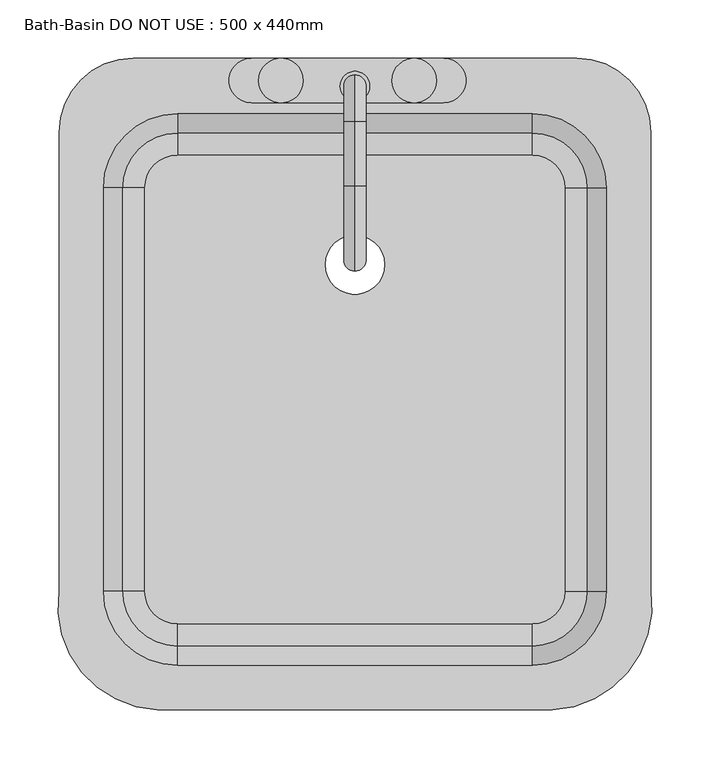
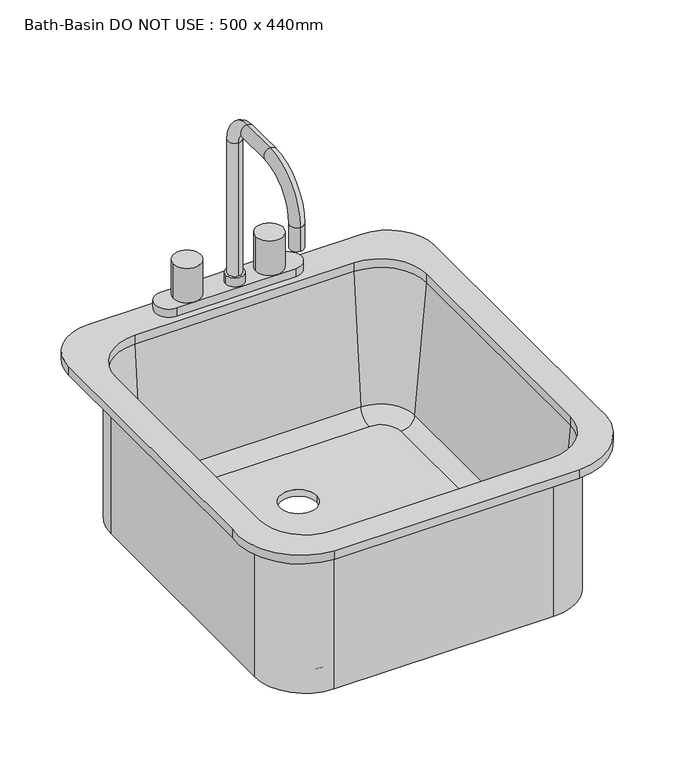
"""IFC4 building model written with IfcOpenShell, lengths in millimetres: flow terminal geometry, Bath-Basin DO NOT USE : 500 x 440mm."""

import ifcopenshell
import ifcopenshell.guid

model = None  # the IFC model being written
_history = None  # IfcOwnerHistory: only IFC2X3 demands one
_inside = {}  # id of a spatial element -> (the spatial element, [elements in it])
_under = {}  # id of a project, library or spatial element -> (it, [spatial elements below it])
_declared = {}  # id of a project -> (the project, [libraries it declares])
_typed = {}  # id of a type object -> (the type object, [elements of that type])
_made_of = {}  # id of a material, layer set ... -> (it, [elements and type objects made of it])


def new_model(schema):
    """Start an empty IFC model of exactly this schema.

    Asked for "IFC4X3", IfcOpenShell would pick the latest addendum, in which some entities
    have other attributes; the version numbers below select the first issue.
    IFC2X3 requires an IfcOwnerHistory on every rooted entity: one is made here for all.
    """
    global model, _history
    if schema == "IFC4X3":
        model = ifcopenshell.file(schema_version=(4, 3, 0, 0))
    else:
        model = ifcopenshell.file(schema=schema)
    _inside.clear()
    _under.clear()
    _declared.clear()
    _typed.clear()
    _made_of.clear()
    _history = None
    if model.schema == "IFC2X3":
        org = make("IfcOrganization", Name="unknown")
        user = make(
            "IfcPersonAndOrganization",
            ThePerson=make("IfcPerson", FamilyName="unknown"),
            TheOrganization=org,
        )
        app = make(
            "IfcApplication",
            ApplicationDeveloper=org,
            Version="unknown",
            ApplicationFullName="unknown",
            ApplicationIdentifier="unknown",
        )
        _history = make(
            "IfcOwnerHistory",
            OwningUser=user,
            OwningApplication=app,
            ChangeAction="ADDED",
            CreationDate=0,
        )
    return model


def make(cls, **values):
    """One entity of the class cls with the attributes given. An attribute that is None is left unset."""
    return model.create_entity(
        cls, **{name: value for name, value in values.items() if value is not None}
    )


def rooted(cls, **values):
    """An entity with a GlobalId (a new one), such as an element, a storey or a relation."""
    return make(cls, GlobalId=ifcopenshell.guid.new(), OwnerHistory=_history, **values)


def si_unit(unit_type, name, prefix=None):
    """IfcSIUnit, for example si_unit("LENGTHUNIT", "METRE", prefix="MILLI")."""
    return make("IfcSIUnit", UnitType=unit_type, Prefix=prefix, Name=name)


def assignment(units):
    """IfcUnitAssignment: the units of a project."""
    return None if units is None else make("IfcUnitAssignment", Units=units)


def point(xyz):
    """IfcCartesianPoint."""
    return None if xyz is None else make("IfcCartesianPoint", Coordinates=xyz)


def direction(xyz):
    """IfcDirection."""
    return None if xyz is None else make("IfcDirection", DirectionRatios=xyz)


def frame(location, z_axis=None, x_axis=None):
    """IfcAxis2Placement3D, a coordinate frame: its origin and axes. An axis left out is left unset."""
    return make(
        "IfcAxis2Placement3D",
        Location=point(location),
        Axis=direction(z_axis),
        RefDirection=direction(x_axis),
    )


def origin():
    """The frame at (0, 0, 0) with its axes left unset."""
    return frame((0.0, 0.0, 0.0))


def place(relative_to, where):
    """IfcLocalPlacement: puts the frame where relative to a parent placement (None: the world)."""
    return make(
        "IfcLocalPlacement", PlacementRelTo=relative_to, RelativePlacement=where
    )


def context(
    kind, dimensions, precision=None, world=None, true_north=None, identifier=None
):
    """IfcGeometricRepresentationContext, for example the 3D "Model" context."""
    return make(
        "IfcGeometricRepresentationContext",
        ContextIdentifier=identifier,
        ContextType=kind,
        CoordinateSpaceDimension=dimensions,
        Precision=precision,
        WorldCoordinateSystem=world,
        TrueNorth=true_north,
    )


def project(units=None, contexts=None):
    """IfcProject with its units and contexts."""
    return rooted(
        "IfcProject",
        Name="project",
        RepresentationContexts=contexts,
        UnitsInContext=assignment(units),
    )


def spatial(cls, under=None, at=None, **own):
    """A site, building, storey or space (cls), placed at a placement, below another one or the project."""
    s = rooted(cls, ObjectPlacement=at, **own)
    if under is not None:
        _under.setdefault(under.id(), (under, []))[1].append(s)
    return s


def polyline(points):
    """IfcPolyline through the points."""
    return make("IfcPolyline", Points=[point(p) for p in points])


def circle_curve(where, radius):
    """IfcCircle in the frame where."""
    return make("IfcCircle", Position=where, Radius=radius)


def ellipse_curve(where, semi_axis1, semi_axis2):
    """IfcEllipse in the frame where."""
    return make(
        "IfcEllipse", Position=where, SemiAxis1=semi_axis1, SemiAxis2=semi_axis2
    )


def trimmed(basis, trim1, trim2, sense, master):
    """IfcTrimmedCurve: the piece of a basis curve between two trims."""
    return make(
        "IfcTrimmedCurve",
        BasisCurve=basis,
        Trim1=trim1,
        Trim2=trim2,
        SenseAgreement=sense,
        MasterRepresentation=master,
    )


def shape(context_of_items, identifier, shape_type, items):
    """IfcShapeRepresentation: the items that make up one representation, for example the "Body"."""
    return make(
        "IfcShapeRepresentation",
        ContextOfItems=context_of_items,
        RepresentationIdentifier=identifier,
        RepresentationType=shape_type,
        Items=items,
    )


def source(mapping_origin, context_of_items, identifier, shape_type, items):
    """IfcRepresentationMap: a shape defined once, which mapped items show again and again."""
    return make(
        "IfcRepresentationMap",
        MappingOrigin=mapping_origin,
        MappedRepresentation=shape(context_of_items, identifier, shape_type, items),
    )


def transform(
    local_origin,
    x_axis=None,
    y_axis=None,
    z_axis=None,
    scale=None,
    scale2=None,
    scale3=None,
    uniform=True,
):
    """IfcCartesianTransformationOperator3D, or its non-uniform kind. x_axis, y_axis, z_axis: its Axis1, 2, 3."""
    if uniform:
        return make(
            "IfcCartesianTransformationOperator3D",
            Axis1=direction(x_axis),
            Axis2=direction(y_axis),
            LocalOrigin=point(local_origin),
            Scale=scale,
            Axis3=direction(z_axis),
        )
    return make(
        "IfcCartesianTransformationOperator3DnonUniform",
        Axis1=direction(x_axis),
        Axis2=direction(y_axis),
        LocalOrigin=point(local_origin),
        Scale=scale,
        Axis3=direction(z_axis),
        Scale2=scale2,
        Scale3=scale3,
    )


def mapped(mapping_source, mapping_target):
    """IfcMappedItem: shows the shape of a source again, moved by a transform."""
    return make(
        "IfcMappedItem", MappingSource=mapping_source, MappingTarget=mapping_target
    )


def made_of(thing, what):
    """Note that an element or type object is made of a material, layer set ...; save() writes the relation."""
    if what is not None:
        _made_of.setdefault(what.id(), (what, []))[1].append(thing)
    return thing


def element(
    cls,
    number,
    at=None,
    inside=None,
    cuts=None,
    type_object=None,
    material=None,
    context=None,
    identifier="Body",
    shape_type=None,
    held_by="IfcProductDefinitionShape",
    body=None,
    shapes=None,
    **own,
):
    """One element of the class cls, such as IfcWall. Its Tag is "e" and its number.

    at: its placement. inside: the storey or other place that contains it. cuts: it is an
    opening in that element (IfcRelVoidsElement). A single representation is given by context,
    identifier, shape_type and body (its items); several are given by shapes. held_by: the class
    of the entity that holds the representations. save() writes the other relations.
    """
    e = rooted(cls, Tag="e%d" % number, ObjectPlacement=at, **own)
    if body is not None:
        shapes = [shape(context, identifier, shape_type, body)]
    if shapes is not None:
        e.Representation = make(held_by, Representations=shapes)
    if inside is not None:
        _inside.setdefault(inside.id(), (inside, []))[1].append(e)
    if cuts is not None:
        rooted(
            "IfcRelVoidsElement", RelatingBuildingElement=cuts, RelatedOpeningElement=e
        )
    if type_object is not None:
        _typed.setdefault(type_object.id(), (type_object, []))[1].append(e)
    return made_of(e, material)


def aggregate(whole, parts):
    """IfcRelAggregates: a whole, such as a stair, and the parts it consists of."""
    return rooted("IfcRelAggregates", RelatingObject=whole, RelatedObjects=parts)


def save(model, path):
    """Write the relations noted so far, then the file.

    IfcRelAggregates (storeys below a building ...), IfcRelContainedInSpatialStructure (elements
    in a storey), IfcRelDefinesByType, IfcRelAssociatesMaterial and IfcRelDeclares: one each for
    every whole, place, type object, material and project.
    """
    for whole, parts in _under.values():
        aggregate(whole, parts)
    for where, things in _inside.values():
        rooted(
            "IfcRelContainedInSpatialStructure",
            RelatedElements=things,
            RelatingStructure=where,
        )
    for kind, things in _typed.values():
        rooted("IfcRelDefinesByType", RelatedObjects=things, RelatingType=kind)
    for what, things in _made_of.values():
        rooted("IfcRelAssociatesMaterial", RelatedObjects=things, RelatingMaterial=what)
    for by, libraries in _declared.values():
        rooted("IfcRelDeclares", RelatingContext=by, RelatedDefinitions=libraries)
    model.write(path)


def plane_surface(at):
    """IfcPlane: the flat surface through the origin of the frame at, square to its z axis."""
    return make("IfcPlane", Position=at)


def cylinder_surface(at, radius):
    """IfcCylindricalSurface: all points at the distance radius from the z axis of the frame at."""
    return make("IfcCylindricalSurface", Position=at, Radius=radius)


def revolved_surface(curve, axis_point, axis_direction):
    """IfcSurfaceOfRevolution: the curve turned about the line through axis_point along axis_direction."""
    return make(
        "IfcSurfaceOfRevolution",
        SweptCurve=make("IfcArbitraryOpenProfileDef", ProfileType="CURVE", Curve=curve),
        AxisPosition=make("IfcAxis1Placement", Location=point(axis_point), Axis=direction(axis_direction)),
    )


def advanced_brep(points, edges, surfaces, faces):
    """IfcAdvancedBrep: a solid bounded by faces that lie on surfaces and meet in shared edges.

    An edge is (start, end): straight between two places in points (the first is 0);
    or (start, end, curve); or (start, end, curve, False) where it runs against its curve.
    A face is (place in surfaces, loops), or (place, loops, False) where it looks against
    its surface's normal. A loop lists edges by number (the first is 1), with a minus sign
    where the edge is run from its end to its start. The first loop is the outer one.
    """
    corners = [point(p) for p in points]
    vertices = [make("IfcVertexPoint", VertexGeometry=c) for c in corners]
    made = []
    for start, end, *more in edges:
        made.append(
            make(
                "IfcEdgeCurve",
                EdgeStart=vertices[start],
                EdgeEnd=vertices[end],
                EdgeGeometry=more[0] if more else make("IfcPolyline", Points=[corners[start], corners[end]]),
                SameSense=more[1] if len(more) > 1 else True,
            )
        )
    hull = []
    for where, loops, *sense in faces:
        bounds = []
        for j, loop in enumerate(loops):
            ring = [make("IfcOrientedEdge", EdgeElement=made[abs(k) - 1], Orientation=k > 0) for k in loop]
            bounds.append(
                make(
                    "IfcFaceOuterBound" if j == 0 else "IfcFaceBound",
                    Bound=make("IfcEdgeLoop", EdgeList=ring),
                    Orientation=True,
                )
            )
        hull.append(make("IfcAdvancedFace", Bounds=bounds, FaceSurface=surfaces[where], SameSense=sense[0] if sense else True))
    return make("IfcAdvancedBrep", Outer=make("IfcClosedShell", CfsFaces=hull))


def bath_basin_do_not_use_500_x_440mm_e641f4fc(model_context):
    return source(origin(), model_context, "Body", "AdvancedBrep", [
        advanced_brep(
        [(237.9392406, 69.0204011, 546.1), (168.0892406, 138.8704011, 546.1), (168.0892406, 138.8704011, 762.0), (237.9392406, 69.0204011, 762.0), (237.9392406, -277.0545989, 546.1), (168.0892406, -346.9045989, 546.1), (-136.7107595, -346.9045989, 546.1), (-206.5607595, -277.0545989, 546.1), (-206.5607595, 69.0204011, 546.1), (-136.7107595, 138.8704011, 546.1), (-9.7107594, 3.175, 546.1), (41.0892406, 3.175, 546.1), (196.0776588, 69.0204011, 555.625), (168.0892406, 97.0088193, 555.625), (-136.7107595, 97.0088193, 555.625), (-164.6991777, 69.0204011, 555.625), (-164.6991777, -277.0545989, 555.625), (-136.7107595, -305.0430171, 555.625), (168.0892406, -305.0430171, 555.625), (196.0776588, -277.0545989, 555.625), (-9.7107594, 3.175, 555.625), (41.0892406, 3.175, 555.625), (215.0551678, 69.0204011, 573.0146831), (168.0892406, 115.9863283, 573.0146831), (231.5892406, 69.0204011, 762.0), (168.0892406, 132.5204011, 762.0), (237.9392406, -277.0545989, 762.0), (215.0551678, -277.0545989, 573.0146831), (231.5892406, -277.0545989, 762.0), (168.0892406, -346.9045989, 762.0), (168.0892406, -324.0205261, 573.0146831), (168.0892406, -340.5545989, 762.0), (-136.7107595, -346.9045989, 762.0), (-136.7107595, -324.0205261, 573.0146831), (-136.7107595, -340.5545989, 762.0), (-206.5607595, -277.0545989, 762.0), (-183.6766867, -277.0545989, 573.0146831), (-200.2107595, -277.0545989, 762.0), (-206.5607595, 69.0204011, 762.0), (-183.6766867, 69.0204011, 573.0146831), (-200.2107595, 69.0204011, 762.0), (-136.7107595, 138.8704011, 762.0), (-136.7107595, 115.9863283, 573.0146831), (-136.7107595, 132.5204011, 762.0), (-153.9606924, -378.6545989, 774.7), (185.3391735, -378.6545989, 774.7), (269.6892406, -277.0545989, 774.7), (269.6892406, 116.6454011, 774.7), (206.1892406, 180.1454011, 774.7), (-174.8107594, 180.1454011, 774.7), (-238.3107594, 116.6454011, 774.7), (-238.3107594, -277.0545982, 774.7), (168.0892406, 132.5204011, 774.7), (231.5892406, 69.0204011, 774.7), (231.5892406, -277.0545989, 774.7), (168.0892406, -340.5545989, 774.7), (-136.7107595, -340.5545989, 774.7), (-200.2107595, -277.0545989, 774.7), (-200.2107595, 69.0204011, 774.7), (-136.7107595, 132.5204011, 774.7), (-153.9606924, -378.6545989, 762.0), (-238.3107594, -277.0545982, 762.0), (-238.3107594, 116.6454011, 762.0), (-174.8107594, 180.1454011, 762.0), (206.1892406, 180.1454011, 762.0), (269.6892406, 116.6454011, 762.0), (269.6892406, -277.0545989, 762.0), (185.3391735, -378.6545989, 762.0)],
        [
            (0, 1, circle_curve(frame((168.0892406, 69.0204011, 546.1), z_axis=(0.0, 0.0, 1.0), x_axis=(0.0, 1.0, 0.0)), 69.85)),
            (1, 2),
            (2, 3, circle_curve(frame((168.0892406, 69.0204011, 762.0), z_axis=(0.0, 0.0, -1.0), x_axis=(0.0, 1.0, 0.0)), 69.85)),
            (3, 0),
            (0, 4),
            (4, 5, circle_curve(frame((168.0892406, -277.0545989, 546.1), z_axis=(0.0, 0.0, -1.0), x_axis=(1.0, 0.0, 0.0)), 69.85)),
            (5, 6),
            (6, 7, circle_curve(frame((-136.7107595, -277.0545989, 546.1), z_axis=(0.0, 0.0, -1.0), x_axis=(0.0, -1.0, 0.0)), 69.85)),
            (7, 8),
            (8, 9, circle_curve(frame((-136.7107595, 69.0204011, 546.1), z_axis=(0.0, 0.0, -1.0), x_axis=(-1.0, 0.0, 0.0)), 69.85)),
            (9, 1),
            (10, 11, circle_curve(frame((15.6892406, 3.175, 546.1), z_axis=(0.0, 0.0, 1.0), x_axis=(1.0, 0.0, 0.0)), 25.4)),
            (11, 10, circle_curve(frame((15.6892406, 3.175, 546.1), z_axis=(0.0, 0.0, 1.0), x_axis=(1.0, 0.0, 0.0)), 25.4)),
            (12, 13, circle_curve(frame((168.0892406, 69.0204011, 555.625), z_axis=(0.0, 0.0, 1.0), x_axis=(0.0, 1.0, 0.0)), 27.9884182)),
            (13, 14),
            (14, 15, circle_curve(frame((-136.7107595, 69.0204011, 555.625), z_axis=(0.0, 0.0, 1.0), x_axis=(-1.0, 0.0, 0.0)), 27.9884182)),
            (15, 16),
            (16, 17, circle_curve(frame((-136.7107595, -277.0545989, 555.625), z_axis=(0.0, 0.0, 1.0), x_axis=(0.0, -1.0, 0.0)), 27.9884182)),
            (17, 18),
            (18, 19, circle_curve(frame((168.0892406, -277.0545989, 555.625), z_axis=(0.0, 0.0, 1.0), x_axis=(1.0, 0.0, 0.0)), 27.9884182)),
            (19, 12),
            (20, 21, circle_curve(frame((15.6892406, 3.175, 555.625), z_axis=(0.0, 0.0, -1.0), x_axis=(1.0, 0.0, 0.0)), 25.4)),
            (21, 20, circle_curve(frame((15.6892406, 3.175, 555.625), z_axis=(0.0, 0.0, -1.0), x_axis=(1.0, 0.0, 0.0)), 25.4)),
            (12, 22, circle_curve(frame((196.0776588, 69.0204011, 574.675), z_axis=(0.0, -1.0, 0.0), x_axis=(1.0, 0.0, 0.0)), 19.05)),
            (22, 23, circle_curve(frame((168.0892406, 69.0204011, 573.0146831), z_axis=(0.0, 0.0, 1.0), x_axis=(0.0, 1.0, 0.0)), 46.9659272)),
            (23, 13, circle_curve(frame((168.0892406, 97.0088193, 574.675), z_axis=(-1.0, 0.0, 0.0), x_axis=(0.0, 1.0, 0.0)), 19.05)),
            (22, 24),
            (24, 25, circle_curve(frame((168.0892406, 69.0204011, 762.0), z_axis=(0.0, 0.0, 1.0), x_axis=(0.0, 1.0, 0.0)), 63.5)),
            (25, 23),
            (3, 26),
            (26, 4),
            (19, 27, circle_curve(frame((196.0776588, -277.0545989, 574.675), z_axis=(0.0, -1.0, 0.0), x_axis=(1.0, 0.0, 0.0)), 19.05)),
            (27, 22),
            (27, 28),
            (28, 24),
            (26, 29, circle_curve(frame((168.0892406, -277.0545989, 762.0), z_axis=(0.0, 0.0, -1.0), x_axis=(1.0, 0.0, 0.0)), 69.85)),
            (29, 5),
            (18, 30, circle_curve(frame((168.0892406, -305.0430171, 574.675), z_axis=(-1.0, 0.0, 0.0), x_axis=(0.0, -1.0, 0.0)), 19.05)),
            (30, 27, circle_curve(frame((168.0892406, -277.0545989, 573.0146831), z_axis=(0.0, 0.0, 1.0), x_axis=(1.0, 0.0, 0.0)), 46.9659272)),
            (30, 31),
            (31, 28, circle_curve(frame((168.0892406, -277.0545989, 762.0), z_axis=(0.0, 0.0, 1.0), x_axis=(1.0, 0.0, 0.0)), 63.5)),
            (29, 32),
            (32, 6),
            (17, 33, circle_curve(frame((-136.7107595, -305.0430171, 574.675), z_axis=(-1.0, 0.0, 0.0), x_axis=(0.0, -1.0, 0.0)), 19.05)),
            (33, 30),
            (33, 34),
            (34, 31),
            (32, 35, circle_curve(frame((-136.7107595, -277.0545989, 762.0), z_axis=(0.0, 0.0, -1.0), x_axis=(0.0, -1.0, 0.0)), 69.85)),
            (35, 7),
            (16, 36, circle_curve(frame((-164.6991777, -277.0545989, 574.675), z_axis=(0.0, 1.0, 0.0), x_axis=(-1.0, 0.0, 0.0)), 19.05)),
            (36, 33, circle_curve(frame((-136.7107595, -277.0545989, 573.0146831), z_axis=(0.0, 0.0, 1.0), x_axis=(0.0, -1.0, 0.0)), 46.9659272)),
            (36, 37),
            (37, 34, circle_curve(frame((-136.7107595, -277.0545989, 762.0), z_axis=(0.0, 0.0, 1.0), x_axis=(0.0, -1.0, 0.0)), 63.5)),
            (35, 38),
            (38, 8),
            (15, 39, circle_curve(frame((-164.6991777, 69.0204011, 574.675), z_axis=(0.0, 1.0, 0.0), x_axis=(-1.0, 0.0, 0.0)), 19.05)),
            (39, 36),
            (39, 40),
            (40, 37),
            (38, 41, circle_curve(frame((-136.7107595, 69.0204011, 762.0), z_axis=(0.0, 0.0, -1.0), x_axis=(-1.0, 0.0, 0.0)), 69.85)),
            (41, 9),
            (14, 42, circle_curve(frame((-136.7107595, 97.0088193, 574.675), z_axis=(1.0, 0.0, 0.0), x_axis=(0.0, 1.0, 0.0)), 19.05)),
            (42, 39, circle_curve(frame((-136.7107595, 69.0204011, 573.0146831), z_axis=(0.0, 0.0, 1.0), x_axis=(-1.0, 0.0, 0.0)), 46.9659272)),
            (42, 43),
            (43, 40, circle_curve(frame((-136.7107595, 69.0204011, 762.0), z_axis=(0.0, 0.0, 1.0), x_axis=(-1.0, 0.0, 0.0)), 63.5)),
            (41, 2),
            (23, 42),
            (25, 43),
            (20, 10),
            (11, 21),
            (44, 45),
            (45, 46, circle_curve(frame((181.5319558, -289.6793432, 774.7), z_axis=(0.0, 0.0, 1.0), x_axis=(1.0, 0.0, 0.0)), 89.0566732)),
            (46, 47),
            (47, 48, circle_curve(frame((206.1892406, 116.6454011, 774.7), z_axis=(0.0, 0.0, 1.0), x_axis=(1.0, 0.0, 0.0)), 63.5)),
            (48, 49),
            (49, 50, circle_curve(frame((-174.8107594, 116.6454011, 774.7), z_axis=(0.0, 0.0, 1.0), x_axis=(1.0, 0.0, 0.0)), 63.5)),
            (50, 51),
            (51, 44, circle_curve(frame((-150.1534746, -289.6793432, 774.7), z_axis=(0.0, 0.0, 1.0), x_axis=(1.0, 0.0, 0.0)), 89.0566732)),
            (52, 53, circle_curve(frame((168.0892406, 69.0204011, 774.7), z_axis=(0.0, 0.0, -1.0), x_axis=(1.0, 0.0, 0.0)), 63.5)),
            (53, 54),
            (54, 55, circle_curve(frame((168.0892406, -277.0545989, 774.7), z_axis=(0.0, 0.0, -1.0), x_axis=(1.0, 0.0, 0.0)), 63.5)),
            (55, 56),
            (56, 57, circle_curve(frame((-136.7107595, -277.0545989, 774.7), z_axis=(0.0, 0.0, -1.0), x_axis=(1.0, 0.0, 0.0)), 63.5)),
            (57, 58),
            (58, 59, circle_curve(frame((-136.7107595, 69.0204011, 774.7), z_axis=(0.0, 0.0, -1.0), x_axis=(1.0, 0.0, 0.0)), 63.5)),
            (59, 52),
            (60, 61, circle_curve(frame((-150.1534746, -289.6793432, 762.0), z_axis=(0.0, 0.0, -1.0), x_axis=(1.0, 0.0, 0.0)), 89.0566732)),
            (61, 62),
            (62, 63, circle_curve(frame((-174.8107594, 116.6454011, 762.0), z_axis=(0.0, 0.0, -1.0), x_axis=(1.0, 0.0, 0.0)), 63.5)),
            (63, 64),
            (64, 65, circle_curve(frame((206.1892406, 116.6454011, 762.0), z_axis=(0.0, 0.0, -1.0), x_axis=(1.0, 0.0, 0.0)), 63.5)),
            (65, 66),
            (66, 67, circle_curve(frame((181.5319558, -289.6793432, 762.0), z_axis=(0.0, 0.0, -1.0), x_axis=(1.0, 0.0, 0.0)), 89.0566732)),
            (67, 60),
            (44, 60),
            (67, 45),
            (66, 46),
            (65, 47),
            (64, 48),
            (63, 49),
            (62, 50),
            (61, 51),
            (52, 25),
            (24, 53),
            (28, 54),
            (31, 55),
            (34, 56),
            (37, 57),
            (40, 58),
            (43, 59),
        ],
        [
            cylinder_surface(frame((168.0892406, 69.0204011, 0.0), z_axis=(0.0, 0.0, -1.0), x_axis=(0.0, 1.0, 0.0)), 69.85),
            plane_surface(frame((168.0892406, 69.0204011, 546.1), z_axis=(0.0, 0.0, -1.0), x_axis=(0.0, 1.0, 0.0))),
            plane_surface(frame((168.0892406, 69.0204011, 555.625), z_axis=(0.0, 0.0, 1.0), x_axis=(0.0, 1.0, 0.0))),
            revolved_surface(trimmed(ellipse_curve(frame((168.0892406, 97.0088193, 574.675), z_axis=(1.0, 0.0, 0.0), x_axis=(0.0, 1.0, 0.0)), 19.05, 19.05), [point((168.0892406, 97.0088193, 555.625))], [point((168.0892406, 115.9863283, 573.0146831))], True, "CARTESIAN"), (168.0892406, 69.0204011, 0.0), (0.0, 0.0, -1.0)),
            revolved_surface(polyline([(168.0892406, 115.9863283, 573.0146831), (168.0892406, 132.5204011, 762.0)]), (168.0892406, 69.0204011, 0.0), (0.0, 0.0, -1.0)),
            plane_surface(frame((237.9392406, 69.0204011, 762.0), z_axis=(1.0, 0.0, 0.0), x_axis=(0.0, -1.0, 0.0))),
            revolved_surface(polyline([(215.1276588, -277.0545989, 574.675), (215.1276588, 69.0204011, 574.675)]), (196.0776588, 69.0204011, 574.675), (0.0, -1.0, 0.0)),
            plane_surface(frame((215.0551678, 69.0204011, 573.0146831), z_axis=(-0.9961946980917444, 0.0, 0.08715574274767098), x_axis=(0.0, -1.0, 0.0))),
            cylinder_surface(frame((168.0892406, -277.0545989, 0.0), z_axis=(0.0, 0.0, -1.0), x_axis=(1.0, 0.0, 0.0)), 69.85),
            revolved_surface(trimmed(ellipse_curve(frame((196.0776588, -277.0545989, 574.675), z_axis=(0.0, -1.0, 0.0), x_axis=(1.0, 0.0, 0.0)), 19.05, 19.05), [point((196.0776588, -277.0545989, 555.625))], [point((215.0551678, -277.0545989, 573.0146831))], True, "CARTESIAN"), (168.0892406, -277.0545989, 0.0), (0.0, 0.0, -1.0)),
            revolved_surface(polyline([(215.0551678, -277.0545989, 573.0146831), (231.5892406, -277.0545989, 762.0)]), (168.0892406, -277.0545989, 0.0), (0.0, 0.0, -1.0)),
            plane_surface(frame((168.0892406, -346.9045989, 762.0), z_axis=(0.0, -1.0, 0.0), x_axis=(-1.0, 0.0, 0.0))),
            revolved_surface(polyline([(-136.71075950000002, -324.0930171, 574.675), (168.0892406, -324.0930171, 574.675)]), (168.0892406, -305.0430171, 574.675), (-1.0, 0.0, 0.0)),
            plane_surface(frame((168.0892406, -324.0205261, 573.0146831), z_axis=(0.0, 0.9961946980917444, 0.08715574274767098), x_axis=(-1.0, 0.0, 0.0))),
            cylinder_surface(frame((-136.7107595, -277.0545989, 0.0), z_axis=(0.0, 0.0, -1.0), x_axis=(0.0, -1.0, 0.0)), 69.85),
            revolved_surface(trimmed(ellipse_curve(frame((-136.7107595, -305.0430171, 574.675), z_axis=(-1.0, 0.0, 0.0), x_axis=(0.0, -1.0, 0.0)), 19.05, 19.05), [point((-136.7107595, -305.0430171, 555.625))], [point((-136.7107595, -324.0205261, 573.0146831))], True, "CARTESIAN"), (-136.7107595, -277.0545989, 0.0), (0.0, 0.0, -1.0)),
            revolved_surface(polyline([(-136.7107595, -324.0205261, 573.0146831), (-136.7107595, -340.5545989, 762.0)]), (-136.7107595, -277.0545989, 0.0), (0.0, 0.0, -1.0)),
            plane_surface(frame((-206.5607595, -277.0545989, 762.0), z_axis=(-1.0, 0.0, 0.0), x_axis=(0.0, 1.0, 0.0))),
            revolved_surface(polyline([(-183.74917770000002, 69.02040110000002, 574.675), (-183.74917770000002, -277.0545989, 574.675)]), (-164.6991777, -277.0545989, 574.675), (0.0, 1.0, 0.0)),
            plane_surface(frame((-183.6766867, -277.0545989, 573.0146831), z_axis=(0.9961946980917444, 0.0, 0.08715574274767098), x_axis=(0.0, 1.0, 0.0))),
            cylinder_surface(frame((-136.7107595, 69.0204011, 0.0), z_axis=(0.0, 0.0, -1.0), x_axis=(-1.0, 0.0, 0.0)), 69.85),
            revolved_surface(trimmed(ellipse_curve(frame((-164.6991777, 69.0204011, 574.675), z_axis=(0.0, 1.0, 0.0), x_axis=(-1.0, 0.0, 0.0)), 19.05, 19.05), [point((-164.6991777, 69.0204011, 555.625))], [point((-183.6766867, 69.0204011, 573.0146831))], True, "CARTESIAN"), (-136.7107595, 69.0204011, 0.0), (0.0, 0.0, -1.0)),
            revolved_surface(polyline([(-183.6766867, 69.0204011, 573.0146831), (-200.2107595, 69.0204011, 762.0)]), (-136.7107595, 69.0204011, 0.0), (0.0, 0.0, -1.0)),
            plane_surface(frame((-136.7107595, 138.8704011, 762.0), z_axis=(0.0, 1.0, 0.0), x_axis=(1.0, 0.0, 0.0))),
            revolved_surface(polyline([(168.08924060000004, 116.0588193, 574.675), (-136.7107595, 116.0588193, 574.675)]), (-136.7107595, 97.0088193, 574.675), (1.0, 0.0, 0.0)),
            plane_surface(frame((-136.7107595, 115.9863283, 573.0146831), z_axis=(0.0, -0.9961946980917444, 0.08715574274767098), x_axis=(1.0, 0.0, 0.0))),
            revolved_surface(polyline([(41.0892406, 3.175, 546.1), (41.0892406, 3.175, 555.625)]), (15.6892406, 3.175, 0.0), (0.0, 0.0, -1.0)),
            plane_surface(frame((185.3391735, -378.6545989, 774.7), z_axis=(0.0, 0.0, 1.0), x_axis=(1.0, 0.0, 0.0))),
            plane_surface(frame((185.3391735, -378.6545989, 762.0), z_axis=(0.0, 0.0, -1.0), x_axis=(-1.0, 0.0, 0.0))),
            plane_surface(frame((-153.9606924, -378.6545989, 774.7), z_axis=(0.0, -1.0, 0.0), x_axis=(0.0, 0.0, -1.0))),
            cylinder_surface(frame((181.5319558, -289.6793432, 762.0), z_axis=(0.0, 0.0, 1.0), x_axis=(1.0, 0.0, 0.0)), 89.0566732),
            plane_surface(frame((269.6892406, -277.0545989, 774.7), z_axis=(1.0, 0.0, 0.0), x_axis=(0.0, 0.0, -1.0))),
            cylinder_surface(frame((206.1892406, 116.6454011, 762.0), z_axis=(0.0, 0.0, 1.0), x_axis=(1.0, 0.0, 0.0)), 63.5),
            plane_surface(frame((206.1892406, 180.1454011, 774.7), z_axis=(0.0, 1.0, 0.0), x_axis=(0.0, 0.0, -1.0))),
            cylinder_surface(frame((-174.8107594, 116.6454011, 762.0), z_axis=(0.0, 0.0, 1.0), x_axis=(1.0, 0.0, 0.0)), 63.5),
            plane_surface(frame((-238.3107594, 116.6454011, 774.7), z_axis=(-1.0, 0.0, 0.0), x_axis=(0.0, 0.0, -1.0))),
            cylinder_surface(frame((-150.1534746, -289.6793432, 762.0), z_axis=(0.0, 0.0, 1.0), x_axis=(1.0, 0.0, 0.0)), 89.0566732),
            revolved_surface(polyline([(231.5892406, 69.0204011, 762.0), (231.5892406, 69.0204011, 774.7)]), (168.0892406, 69.0204011, 0.0), (0.0, 0.0, -1.0)),
            plane_surface(frame((231.5892406, 69.0204011, 774.7), z_axis=(-1.0, 0.0, 0.0), x_axis=(0.0, 0.0, -1.0))),
            revolved_surface(polyline([(231.5892406, -277.0545989, 762.0), (231.5892406, -277.0545989, 774.7)]), (168.0892406, -277.0545989, 0.0), (0.0, 0.0, -1.0)),
            plane_surface(frame((168.0892406, -340.5545989, 774.7), z_axis=(0.0, 1.0, 0.0), x_axis=(0.0, 0.0, -1.0))),
            revolved_surface(polyline([(-73.2107595, -277.0545989, 762.0), (-73.2107595, -277.0545989, 774.7)]), (-136.7107595, -277.0545989, 0.0), (0.0, 0.0, -1.0)),
            plane_surface(frame((-200.2107595, -277.0545989, 774.7), z_axis=(1.0, 0.0, 0.0), x_axis=(0.0, 0.0, -1.0))),
            revolved_surface(polyline([(-73.2107595, 69.0204011, 762.0), (-73.2107595, 69.0204011, 774.7)]), (-136.7107595, 69.0204011, 0.0), (0.0, 0.0, -1.0)),
            plane_surface(frame((-136.7107595, 132.5204011, 774.7), z_axis=(0.0, -1.0, 0.0), x_axis=(0.0, 0.0, -1.0))),
        ],
        [
            (0, [[1, 2, 3, 4]]),
            (1, [[-1, 5, 6, 7, 8, 9, 10, 11], [12, 13]]),
            (2, [[14, 15, 16, 17, 18, 19, 20, 21], [22, 23]]),
            (3, [[-14, 24, 25, 26]]),
            (4, [[-25, 27, 28, 29]]),
            (5, [[-4, 30, 31, -5]]),
            (6, [[-24, -21, 32, 33]]),
            (7, [[-27, -33, 34, 35]]),
            (8, [[-31, 36, 37, -6]]),
            (9, [[-32, -20, 38, 39]]),
            (10, [[-34, -39, 40, 41]]),
            (11, [[-37, 42, 43, -7]]),
            (12, [[-38, -19, 44, 45]]),
            (13, [[-40, -45, 46, 47]]),
            (14, [[-43, 48, 49, -8]]),
            (15, [[-44, -18, 50, 51]]),
            (16, [[-46, -51, 52, 53]]),
            (17, [[-49, 54, 55, -9]]),
            (18, [[-50, -17, 56, 57]]),
            (19, [[-52, -57, 58, 59]]),
            (20, [[-55, 60, 61, -10]]),
            (21, [[-56, -16, 62, 63]]),
            (22, [[-58, -63, 64, 65]]),
            (23, [[-2, -11, -61, 66]]),
            (24, [[-26, 67, -62, -15]]),
            (25, [[-29, 68, -64, -67]]),
            (26, [[-22, 69, -13, 70]]),
            (26, [[-23, -70, -12, -69]]),
            (27, [[71, 72, 73, 74, 75, 76, 77, 78], [79, 80, 81, 82, 83, 84, 85, 86]]),
            (28, [[87, 88, 89, 90, 91, 92, 93, 94], [-3, -66, -60, -54, -48, -42, -36, -30]]),
            (29, [[-71, 95, -94, 96]]),
            (30, [[-72, -96, -93, 97]]),
            (31, [[-73, -97, -92, 98]]),
            (32, [[-74, -98, -91, 99]]),
            (33, [[-75, -99, -90, 100]]),
            (34, [[-76, -100, -89, 101]]),
            (35, [[-77, -101, -88, 102]]),
            (36, [[-78, -102, -87, -95]]),
            (37, [[-79, 103, -28, 104]]),
            (38, [[-80, -104, -35, 105]]),
            (39, [[-81, -105, -41, 106]]),
            (40, [[-82, -106, -47, 107]]),
            (41, [[-83, -107, -53, 108]]),
            (42, [[-84, -108, -59, 109]]),
            (43, [[-85, -109, -65, 110]]),
            (44, [[-86, -110, -68, -103]]),
        ],
    ),
        advanced_brep(
        [(91.8892406, 180.1454011, 774.7), (91.8892406, 142.0454011, 774.7), (66.4892406, 142.0454011, 774.7), (-47.8107594, 142.0454011, 774.7), (-73.2107594, 142.0454011, 774.7), (-73.2107594, 180.1454011, 774.7), (-47.8107594, 180.1454011, 774.7), (66.4892406, 180.1454011, 774.7), (15.6892406, 165.8579011, 995.3625), (15.6892406, 146.8079011, 995.3625), (15.6892406, 146.8079011, 800.1), (15.6892406, 165.8579011, 800.1), (15.6892406, 126.1704011, 1035.05), (15.6892406, 126.1704011, 1016.0), (15.6892406, 70.6079011, 1035.05), (15.6892406, 70.6079011, 1016.0), (15.6892406, -2.4170989, 962.025), (15.6892406, 16.6329011, 962.025), (15.6892406, -2.4170989, 927.1), (15.6892406, 16.6329011, 927.1), (2.9892406, 156.3329011, 800.1), (28.3892406, 156.3329011, 800.1), (2.9892406, 156.3329011, 787.2), (28.3892406, 156.3329011, 787.2), (-73.2107594, 180.1454011, 787.2), (-73.2107594, 142.0454011, 787.2), (-47.8107594, 142.0454011, 787.2), (-66.8607594, 161.0954011, 787.2), (-47.8107594, 180.1454011, 787.2), (91.8892406, 142.0454011, 787.2), (91.8892406, 180.1454011, 787.2), (66.4892406, 180.1454011, 787.2), (85.5392406, 161.0954011, 787.2), (66.4892406, 142.0454011, 787.2), (-28.7607594, 161.0954011, 787.2), (47.4392406, 161.0954011, 787.2), (-66.8607594, 161.0954011, 838.2), (-28.7607594, 161.0954011, 838.2), (47.4392406, 161.0954011, 838.2), (85.5392406, 161.0954011, 838.2)],
        [
            (0, 1, circle_curve(frame((91.8892406, 161.0954011, 774.7), z_axis=(0.0, 0.0, -1.0), x_axis=(1.0, 0.0, 0.0)), 19.05)),
            (1, 2),
            (2, 3),
            (3, 4),
            (4, 5, circle_curve(frame((-73.2107594, 161.0954011, 774.7), z_axis=(0.0, 0.0, -1.0), x_axis=(1.0, 0.0, 0.0)), 19.05)),
            (5, 6),
            (6, 7),
            (7, 0),
            (8, 9, circle_curve(frame((15.6892406, 156.3329011, 995.3625), z_axis=(0.0, 0.0, -1.0), x_axis=(0.0, -1.0, 0.0)), 9.525)),
            (9, 10),
            (10, 11, circle_curve(frame((15.6892406, 156.3329011, 800.1), z_axis=(0.0, 0.0, 1.0), x_axis=(0.0, -1.0, 0.0)), 9.525)),
            (11, 8),
            (9, 8, circle_curve(frame((15.6892406, 156.3329011, 995.3625), z_axis=(0.0, 0.0, -1.0), x_axis=(0.0, -1.0, 0.0)), 9.525)),
            (11, 10, circle_curve(frame((15.6892406, 156.3329011, 800.1), z_axis=(0.0, 0.0, 1.0), x_axis=(0.0, -1.0, 0.0)), 9.525)),
            (8, 12, circle_curve(frame((15.6892406, 126.1704011, 995.3625), z_axis=(1.0, 0.0, 0.0), x_axis=(0.0, 1.0, 0.0)), 39.6875)),
            (12, 13, circle_curve(frame((15.6892406, 126.1704011, 1025.525), z_axis=(0.0, 1.0, 0.0), x_axis=(0.0, 0.0, -1.0)), 9.525)),
            (13, 9, circle_curve(frame((15.6892406, 126.1704011, 995.3625), z_axis=(-1.0, 0.0, 0.0), x_axis=(0.0, 1.0, 0.0)), 20.6375)),
            (13, 12, circle_curve(frame((15.6892406, 126.1704011, 1025.525), z_axis=(0.0, 1.0, 0.0), x_axis=(0.0, 0.0, -1.0)), 9.525)),
            (12, 14),
            (14, 15, circle_curve(frame((15.6892406, 70.6079011, 1025.525), z_axis=(0.0, 1.0, 0.0), x_axis=(0.0, 0.0, -1.0)), 9.525)),
            (15, 13),
            (15, 14, circle_curve(frame((15.6892406, 70.6079011, 1025.525), z_axis=(0.0, 1.0, 0.0), x_axis=(0.0, 0.0, -1.0)), 9.525)),
            (14, 16, circle_curve(frame((15.6892406, 70.6079011, 962.025), z_axis=(1.0, 0.0, 0.0), x_axis=(0.0, 0.0, 1.0)), 73.025)),
            (16, 17, circle_curve(frame((15.6892406, 7.1079011, 962.025), z_axis=(0.0, 0.0, 1.0), x_axis=(0.0, 1.0, 0.0)), 9.525)),
            (17, 15, circle_curve(frame((15.6892406, 70.6079011, 962.025), z_axis=(-1.0, 0.0, 0.0), x_axis=(0.0, 0.0, 1.0)), 53.975)),
            (17, 16, circle_curve(frame((15.6892406, 7.1079011, 962.025), z_axis=(0.0, 0.0, 1.0), x_axis=(0.0, 1.0, 0.0)), 9.525)),
            (18, 19, circle_curve(frame((15.6892406, 7.1079011, 927.1), z_axis=(0.0, 0.0, -1.0), x_axis=(0.0, 1.0, 0.0)), 9.525)),
            (19, 18, circle_curve(frame((15.6892406, 7.1079011, 927.1), z_axis=(0.0, 0.0, -1.0), x_axis=(0.0, 1.0, 0.0)), 9.525)),
            (16, 18),
            (19, 17),
            (20, 21, circle_curve(frame((15.6892406, 156.3329011, 800.1), z_axis=(0.0, 0.0, 1.0), x_axis=(1.0, 0.0, 0.0)), 12.7)),
            (21, 20, circle_curve(frame((15.6892406, 156.3329011, 800.1), z_axis=(0.0, 0.0, 1.0), x_axis=(1.0, 0.0, 0.0)), 12.7)),
            (20, 22),
            (22, 23, circle_curve(frame((15.6892406, 156.3329011, 787.2), z_axis=(0.0, 0.0, 1.0), x_axis=(1.0, 0.0, 0.0)), 12.7)),
            (23, 21),
            (23, 22, circle_curve(frame((15.6892406, 156.3329011, 787.2), z_axis=(0.0, 0.0, 1.0), x_axis=(1.0, 0.0, 0.0)), 12.7)),
            (24, 25, circle_curve(frame((-73.2107594, 161.0954011, 787.2), z_axis=(0.0, 0.0, 1.0), x_axis=(1.0, 0.0, 0.0)), 19.05)),
            (25, 26),
            (26, 27, circle_curve(frame((-47.8107594, 161.0954011, 787.2), z_axis=(0.0, 0.0, -1.0), x_axis=(1.0, 0.0, 0.0)), 19.05)),
            (27, 28, circle_curve(frame((-47.8107594, 161.0954011, 787.2), z_axis=(0.0, 0.0, -1.0), x_axis=(1.0, 0.0, 0.0)), 19.05)),
            (28, 24),
            (29, 30, circle_curve(frame((91.8892406, 161.0954011, 787.2), z_axis=(0.0, 0.0, 1.0), x_axis=(1.0, 0.0, 0.0)), 19.05)),
            (30, 31),
            (31, 32, circle_curve(frame((66.4892406, 161.0954011, 787.2), z_axis=(0.0, 0.0, -1.0), x_axis=(1.0, 0.0, 0.0)), 19.05)),
            (32, 33, circle_curve(frame((66.4892406, 161.0954011, 787.2), z_axis=(0.0, 0.0, -1.0), x_axis=(1.0, 0.0, 0.0)), 19.05)),
            (33, 29),
            (31, 28),
            (28, 34, circle_curve(frame((-47.8107594, 161.0954011, 787.2), z_axis=(0.0, 0.0, -1.0), x_axis=(1.0, 0.0, 0.0)), 19.05)),
            (34, 26, circle_curve(frame((-47.8107594, 161.0954011, 787.2), z_axis=(0.0, 0.0, -1.0), x_axis=(1.0, 0.0, 0.0)), 19.05)),
            (26, 33),
            (33, 35, circle_curve(frame((66.4892406, 161.0954011, 787.2), z_axis=(0.0, 0.0, -1.0), x_axis=(1.0, 0.0, 0.0)), 19.05)),
            (35, 31, circle_curve(frame((66.4892406, 161.0954011, 787.2), z_axis=(0.0, 0.0, -1.0), x_axis=(1.0, 0.0, 0.0)), 19.05)),
            (30, 0),
            (5, 24),
            (4, 25),
            (1, 29),
            (36, 37, circle_curve(frame((-47.8107594, 161.0954011, 838.2), z_axis=(0.0, 0.0, 1.0), x_axis=(1.0, 0.0, 0.0)), 19.05)),
            (37, 36, circle_curve(frame((-47.8107594, 161.0954011, 838.2), z_axis=(0.0, 0.0, 1.0), x_axis=(1.0, 0.0, 0.0)), 19.05)),
            (38, 39, circle_curve(frame((66.4892406, 161.0954011, 838.2), z_axis=(0.0, 0.0, 1.0), x_axis=(1.0, 0.0, 0.0)), 19.05)),
            (39, 38, circle_curve(frame((66.4892406, 161.0954011, 838.2), z_axis=(0.0, 0.0, 1.0), x_axis=(1.0, 0.0, 0.0)), 19.05)),
            (36, 27),
            (34, 37),
            (38, 35),
            (32, 39),
        ],
        [
            plane_surface(frame((15.6892406, 146.8079011, 774.7), z_axis=(0.0, 0.0, -1.0), x_axis=(1.0, 0.0, 0.0))),
            cylinder_surface(frame((15.6892406, 156.3329011, 774.7), z_axis=(0.0, 0.0, -1.0), x_axis=(0.0, -1.0, 0.0)), 9.525),
            revolved_surface(trimmed(ellipse_curve(frame((15.6892406, 156.3329011, 995.3625), z_axis=(0.0, 0.0, -1.0), x_axis=(0.0, -1.0, 0.0)), 9.525, 9.525), [point((15.6892406, 165.8579011, 995.3625))], [point((15.6892406, 146.8079011, 995.3625))], True, "CARTESIAN"), (15.6892406, 126.1704011, 995.3625), (1.0, 0.0, 0.0)),
            revolved_surface(trimmed(ellipse_curve(frame((15.6892406, 156.3329011, 995.3625), z_axis=(0.0, 0.0, -1.0), x_axis=(0.0, -1.0, 0.0)), 9.525, 9.525), [point((15.6892406, 146.8079011, 995.3625))], [point((15.6892406, 165.8579011, 995.3625))], True, "CARTESIAN"), (15.6892406, 126.1704011, 995.3625), (1.0, 0.0, 0.0)),
            cylinder_surface(frame((15.6892406, 126.1704011, 1025.525), z_axis=(0.0, 1.0, 0.0), x_axis=(0.0, 0.0, -1.0)), 9.525),
            revolved_surface(trimmed(ellipse_curve(frame((15.6892406, 70.6079011, 1025.525), z_axis=(0.0, 1.0, 0.0), x_axis=(0.0, 0.0, -1.0)), 9.525, 9.525), [point((15.6892406, 70.6079011, 1035.05))], [point((15.6892406, 70.6079011, 1016.0))], True, "CARTESIAN"), (15.6892406, 70.6079011, 962.025), (1.0, 0.0, 0.0)),
            revolved_surface(trimmed(ellipse_curve(frame((15.6892406, 70.6079011, 1025.525), z_axis=(0.0, 1.0, 0.0), x_axis=(0.0, 0.0, -1.0)), 9.525, 9.525), [point((15.6892406, 70.6079011, 1016.0))], [point((15.6892406, 70.6079011, 1035.05))], True, "CARTESIAN"), (15.6892406, 70.6079011, 962.025), (1.0, 0.0, 0.0)),
            plane_surface(frame((15.6892406, -2.4170989, 927.1), z_axis=(0.0, 0.0, -1.0), x_axis=(-1.0, 0.0, 0.0))),
            cylinder_surface(frame((15.6892406, 7.1079011, 962.025), z_axis=(0.0, 0.0, 1.0), x_axis=(0.0, 1.0, 0.0)), 9.525),
            plane_surface(frame((28.3892406, 156.3329011, 800.1), z_axis=(0.0, 0.0, 1.0), x_axis=(0.0, 1.0, 0.0))),
            cylinder_surface(frame((15.6892406, 156.3329011, 774.7), z_axis=(0.0, 0.0, 1.0), x_axis=(1.0, 0.0, 0.0)), 12.7),
            plane_surface(frame((-73.2107594, 180.1454011, 787.2), z_axis=(0.0, 0.0, 1.0), x_axis=(-1.0, 0.0, 0.0))),
            plane_surface(frame((91.8892406, 180.1454011, 787.2), z_axis=(0.0, 1.0, 0.0), x_axis=(0.0, 0.0, -1.0))),
            cylinder_surface(frame((-73.2107594, 161.0954011, 774.7), z_axis=(0.0, 0.0, 1.0), x_axis=(1.0, 0.0, 0.0)), 19.05),
            plane_surface(frame((-73.2107594, 142.0454011, 787.2), z_axis=(0.0, -1.0, 0.0), x_axis=(0.0, 0.0, -1.0))),
            cylinder_surface(frame((91.8892406, 161.0954011, 774.7), z_axis=(0.0, 0.0, 1.0), x_axis=(1.0, 0.0, 0.0)), 19.05),
            plane_surface(frame((-28.7607594, 161.0954011, 838.2), z_axis=(0.0, 0.0, 1.0), x_axis=(0.0, 1.0, 0.0))),
            cylinder_surface(frame((-47.8107594, 161.0954011, 774.7), z_axis=(0.0, 0.0, 1.0), x_axis=(1.0, 0.0, 0.0)), 19.05),
            cylinder_surface(frame((66.4892406, 161.0954011, 0.0), z_axis=(0.0, 0.0, 1.0), x_axis=(1.0, 0.0, 0.0)), 19.05),
        ],
        [
            (0, [[1, 2, 3, 4, 5, 6, 7, 8]]),
            (1, [[9, 10, 11, 12]]),
            (1, [[13, -12, 14, -10]]),
            (2, [[-9, 15, 16, 17]]),
            (3, [[-13, -17, 18, -15]]),
            (4, [[-16, 19, 20, 21]]),
            (4, [[-18, -21, 22, -19]]),
            (5, [[-20, 23, 24, 25]]),
            (6, [[-22, -25, 26, -23]]),
            (7, [[27, 28]]),
            (8, [[-24, 29, -28, 30]]),
            (8, [[-26, -30, -27, -29]]),
            (9, [[31, 32], [-11, -14]]),
            (10, [[-31, 33, 34, 35]]),
            (10, [[-32, -35, 36, -33]]),
            (11, [[37, 38, 39, 40, 41]]),
            (11, [[42, 43, 44, 45, 46]]),
            (11, [[47, 48, 49, 50, 51, 52], [-34, -36]]),
            (12, [[53, -8, -7, -6, 54, -41, -47, -43]]),
            (13, [[-37, -54, -5, 55]]),
            (14, [[-55, -4, -3, -2, 56, -46, -50, -38]]),
            (15, [[-42, -56, -1, -53]]),
            (16, [[57, 58]]),
            (16, [[59, 60]]),
            (17, [[-57, 61, -39, -49, 62]]),
            (17, [[-58, -62, -48, -40, -61]]),
            (18, [[-59, 63, -51, -45, 64]]),
            (18, [[-60, -64, -44, -52, -63]]),
        ],
    ),
    ])


if __name__ == "__main__":
    model = new_model("IFC4")
    model_context = context("Model", 3, world=origin())
    ifc_project = project(units=[si_unit("LENGTHUNIT", "METRE", prefix="MILLI")], contexts=[model_context])
    site = spatial("IfcSite", under=ifc_project)
    building = spatial("IfcBuilding", under=site)
    placement = place(None, origin())
    bath_basin_do_not_use_500_x_440mm_shape = bath_basin_do_not_use_500_x_440mm_e641f4fc(model_context)
    element("IfcFlowTerminal", 1, ObjectType="Bath-Basin DO NOT USE : 500 x 440mm", at=placement, inside=building, context=model_context, shape_type="MappedRepresentation", body=[
        mapped(bath_basin_do_not_use_500_x_440mm_shape, transform((0.0, 0.0, 0.0), x_axis=(1.0, 0.0, 0.0), y_axis=(0.0, 1.0, 0.0), z_axis=(0.0, 0.0, 1.0))),
    ])
    save(model, "model.ifc")
